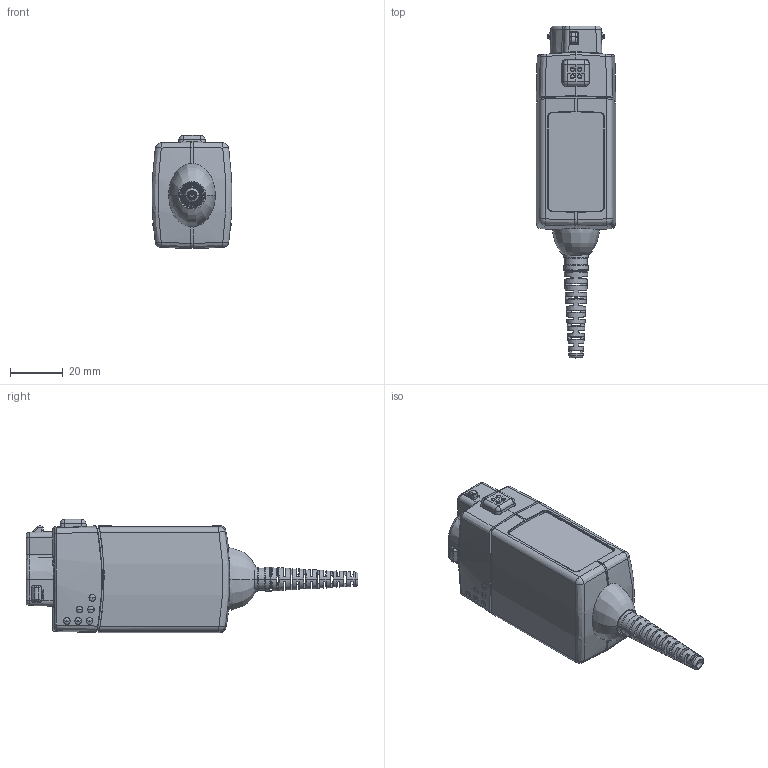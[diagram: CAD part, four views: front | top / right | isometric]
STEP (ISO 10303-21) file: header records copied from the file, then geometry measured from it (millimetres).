
FILE_DESCRIPTION((''),'2;1');
FILE_NAME('MODULE_COMP-BOX_RLV_ASM','2022-03-14T12:26:15',('mthomps2'),(''),'CREO PARAMETRIC BY PTC INC, 2019080','CREO PARAMETRIC BY PTC INC, 2019080','');
FILE_SCHEMA(('CONFIG_CONTROL_DESIGN','SHAPE_APPEARANCE_LAYERS_GROUPS'));
Length unit declared in the file: inch
Products named in the file (21): MODULE_COMP-BOX_SKEL_RLV; COVER_ACTV_RT_VPI_RLV; COVER_ACTV_LFT_VPI_RLV; 611X-4188-101; 611X-4188-112; 611X-4188-103; 611X-4188-102; 611X-4188-113; 611X-4188-120; 611X-4188-110; 611X-4188-100_ASM; BOOT_ACTIV_VPI; BOOT_CAP_VPI; CABLE_VPI_RLV_ASM; LABEL_TOP_COMPBOX_VPI_RLV; PRE_NOSE_VPI_RLV_ASM; NOSE_VPI; CATCH_DOGS_VPI; CATCH_LOCK_VPI; NOSE_VPI_ASM; MODULE_COMP-BOX_RLV_ASM
Assembly tree (21 placements, depth 5):
  MODULE_COMP-BOX_RLV_ASM
    MODULE_COMP-BOX_SKEL_RLV
    PRE_NOSE_VPI_RLV_ASM
      COVER_ACTV_RT_VPI_RLV
      COVER_ACTV_LFT_VPI_RLV
      CABLE_VPI_RLV_ASM
        611X-4188-100_ASM
          611X-4188-101
          611X-4188-112
          611X-4188-103
          611X-4188-102
          611X-4188-113
          611X-4188-120
          611X-4188-110
        BOOT_ACTIV_VPI
        BOOT_CAP_VPI
      LABEL_TOP_COMPBOX_VPI_RLV
    NOSE_VPI_ASM
      NOSE_VPI
      CATCH_DOGS_VPI  x2
      CATCH_LOCK_VPI
Bounding box: 30.43 x 126.24 x 43.03 mm (x, y, z)
Volume: 27355.7 mm3; surface area: 35710.6 mm2
Topology: 18 solids, 18 shells, 1525 faces, 4147 edges, 2658 vertices
Faces by surface type: plane 803, cylinder 281, cone 199, bspline 194, sphere 27, torus 19, extrusion 2
Entity records: 75867 total; most frequent: CARTESIAN_POINT 27048, ORIENTED_EDGE 8084, DIRECTION 6037, PRESENTATION_STYLE_ASSIGNMENT 4173, STYLED_ITEM 4173, CURVE_STYLE 4042, EDGE_CURVE 4042, VERTEX_POINT 2601
